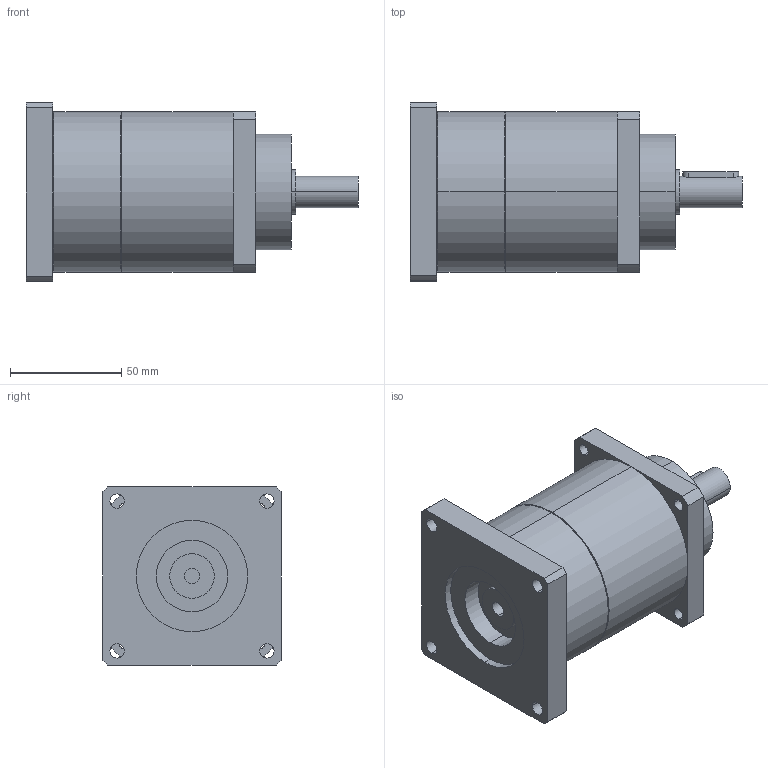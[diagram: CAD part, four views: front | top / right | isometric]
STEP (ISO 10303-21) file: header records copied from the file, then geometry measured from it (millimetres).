
FILE_DESCRIPTION(('CoCreate Modeling STEP Export'),'2;1');
FILE_NAME('GPT75_ig-9-12-16-20-25-28-35-40-50-70-100_14_B5T_7_P27.stp','2014-08-27T13:41:10',(''),(''),'CoCreate Modeling STEP processor for AP214 (Solid Model)','CoCreate Modeling 16.00C 25-Feb-2009 (C) Parametric Technology GmbH','');
FILE_SCHEMA(('AUTOMOTIVE_DESIGN { 1 0 10303 214 1 1 1 1 }'));
Length unit declared in the file: millimetre
Products named in the file (2): GPT75_ig-9-12-16-20-25-28-35-40-50-70-100_14_B5T_7_P27
Assembly tree (1 placements, depth 2):
  GPT75_ig-9-12-16-20-25-28-35-40-50-70-100_14_B5T_7_P27
    GPT75_ig-9-12-16-20-25-28-35-40-50-70-100_14_B5T_7_P27
Bounding box: 149 x 80 x 80 mm (x, y, z)
Volume: 480575.3 mm3; surface area: 48004.5 mm2
Topology: 1 solids, 1 shells, 77 faces, 191 edges, 126 vertices
Faces by surface type: cylinder 46, plane 27, cone 4
Entity records: 2469 total; most frequent: CARTESIAN_POINT 716, ORIENTED_EDGE 382, DIRECTION 320, EDGE_CURVE 191, VERTEX_POINT 126, AXIS2_PLACEMENT_3D 118, EDGE_LOOP 103, VECTOR 84
